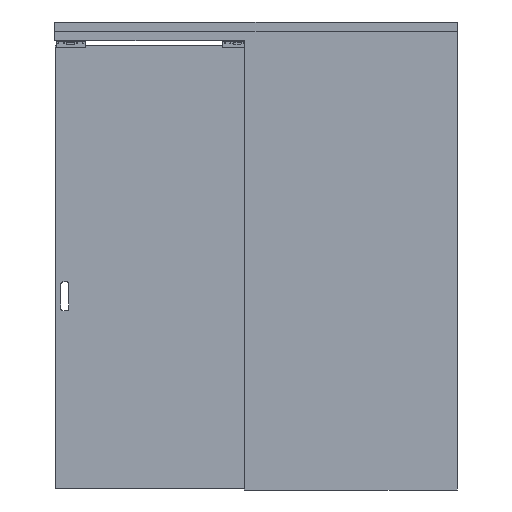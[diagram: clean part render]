
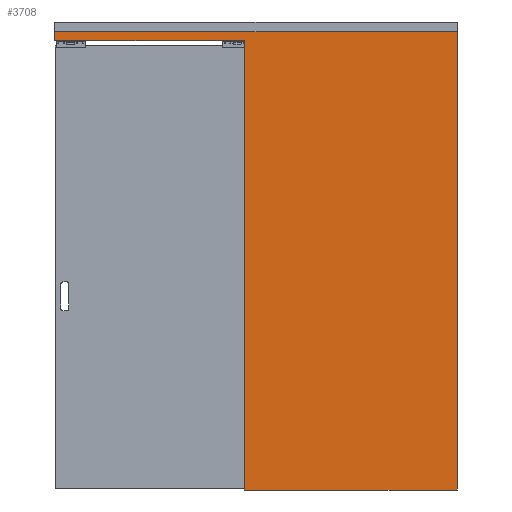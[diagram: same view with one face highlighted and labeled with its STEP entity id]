
A CAD part, front view. The second image highlights one B-rep face of the part: STEP entity #3708.
In plain terms, the highlighted planar face has unit normal (0, -1, 0).
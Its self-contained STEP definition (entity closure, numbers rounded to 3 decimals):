
#3708=ADVANCED_FACE('',(#7635),#7636,.F.);
#7635=FACE_OUTER_BOUND('',#11684,.T.);
#7636=PLANE('',#11685);
#11684=EDGE_LOOP('',(#22003,#22004,#22005,#22006,#22007,#22008));
#11685=AXIS2_PLACEMENT_3D('',#22009,#22010,#22011);
#22003=ORIENTED_EDGE('',*,*,#27884,.T.);
#22004=ORIENTED_EDGE('',*,*,#27874,.F.);
#22005=ORIENTED_EDGE('',*,*,#27878,.F.);
#22006=ORIENTED_EDGE('',*,*,#27882,.T.);
#22007=ORIENTED_EDGE('',*,*,#27885,.F.);
#22008=ORIENTED_EDGE('',*,*,#27886,.F.);
#22009=CARTESIAN_POINT('',(0.0,-46.5,2333.0));
#22010=DIRECTION('',(0.0,1.0,-0.0));
#22011=DIRECTION('',(0.0,0.0,1.0));
#27874=EDGE_CURVE('',#34228,#34223,#34230,.T.);
#27878=EDGE_CURVE('',#34234,#34228,#34236,.T.);
#27882=EDGE_CURVE('',#34234,#34240,#34242,.T.);
#27884=EDGE_CURVE('',#34244,#34223,#34245,.T.);
#27885=EDGE_CURVE('',#34246,#34240,#34247,.T.);
#27886=EDGE_CURVE('',#34244,#34246,#34248,.T.);
#34223=VERTEX_POINT('',#42913);
#34228=VERTEX_POINT('',#42920);
#34230=LINE('',#42923,#42924);
#34234=VERTEX_POINT('',#42929);
#34236=LINE('',#42932,#42933);
#34240=VERTEX_POINT('',#42938);
#34242=LINE('',#42941,#42942);
#34244=VERTEX_POINT('',#42944);
#34245=LINE('',#42945,#42946);
#34246=VERTEX_POINT('',#42947);
#34247=LINE('',#42948,#42949);
#34248=LINE('',#42950,#42951);
#42913=CARTESIAN_POINT('',(980.0,-46.5,2321.5));
#42920=CARTESIAN_POINT('',(980.0,-46.5,0.));
#42923=CARTESIAN_POINT('',(980.0,-46.5,7.));
#42924=VECTOR('',#49297,1.0);
#42929=CARTESIAN_POINT('',(2080.0,-46.5,0.));
#42932=CARTESIAN_POINT('',(1327.5,-46.5,0.));
#42933=VECTOR('',#49300,1.0);
#42938=CARTESIAN_POINT('',(2080.0,-46.5,2368.0));
#42941=CARTESIAN_POINT('',(2080.0,-46.5,7.));
#42942=VECTOR('',#49303,1.0);
#42944=CARTESIAN_POINT('',(0.0,-46.5,2321.5));
#42945=CARTESIAN_POINT('',(0.0,-46.5,2321.5));
#42946=VECTOR('',#49304,1.0);
#42947=CARTESIAN_POINT('',(0.0,-46.5,2368.0));
#42948=CARTESIAN_POINT('',(1270.0,-46.5,2368.0));
#42949=VECTOR('',#49305,1.0);
#42950=CARTESIAN_POINT('',(0.0,-46.5,2301.0));
#42951=VECTOR('',#49306,1.0);
#49297=DIRECTION('',(0.0,0.0,1.0));
#49300=DIRECTION('',(-1.0,0.0,0.0));
#49303=DIRECTION('',(0.0,0.0,1.0));
#49304=DIRECTION('',(1.0,0.0,0.0));
#49305=DIRECTION('',(1.0,0.0,0.0));
#49306=DIRECTION('',(0.0,0.0,1.0));
